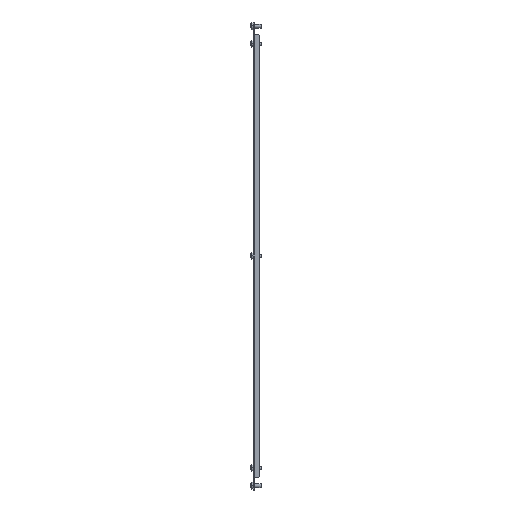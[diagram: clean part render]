
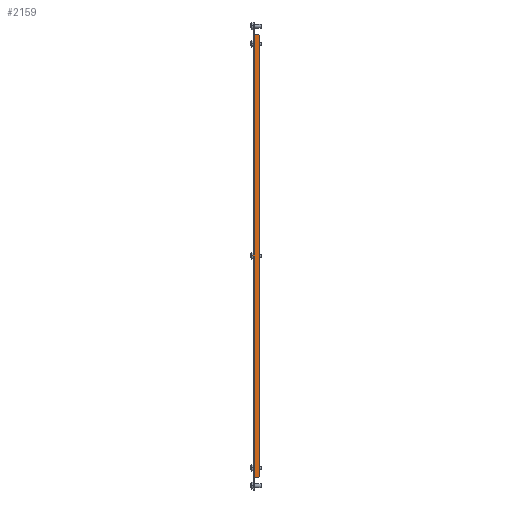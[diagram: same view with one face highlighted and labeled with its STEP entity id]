
A CAD part, left-side view. The second image highlights one B-rep face of the part: STEP entity #2159.
In plain terms, the highlighted planar face has unit normal (-1, 0, 0) as drawn and (1, 0, 0) by its records, which use the part's own axes.
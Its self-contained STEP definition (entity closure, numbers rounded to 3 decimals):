
#152 = EDGE_CURVE ( 'NONE', #1749, #219, #3457, .T. ) ;
#219 = VERTEX_POINT ( 'NONE', #1652 ) ;
#301 = CARTESIAN_POINT ( 'NONE',  ( 334., 313., 0. ) ) ;
#354 = ORIENTED_EDGE ( 'NONE', *, *, #2448, .T. ) ;
#365 = ORIENTED_EDGE ( 'NONE', *, *, #152, .T. ) ;
#373 = VECTOR ( 'NONE', #491, 1000. ) ;
#491 = DIRECTION ( 'NONE',  ( 0., -1., 0. ) ) ;
#509 = FACE_OUTER_BOUND ( 'NONE', #3644, .T. ) ;
#536 = DIRECTION ( 'NONE',  ( 0., 0.707, 0.707 ) ) ;
#622 = DIRECTION ( 'NONE',  ( 0., 0., 1. ) ) ;
#681 = EDGE_CURVE ( 'NONE', #219, #2114, #2791, .T. ) ;
#684 = VECTOR ( 'NONE', #3424, 1000. ) ;
#801 = EDGE_CURVE ( 'NONE', #3522, #1749, #1502, .T. ) ;
#832 = ORIENTED_EDGE ( 'NONE', *, *, #681, .T. ) ;
#879 = CARTESIAN_POINT ( 'NONE',  ( 334., -313., 0. ) ) ;
#897 = CARTESIAN_POINT ( 'NONE',  ( 334., 0., -9. ) ) ;
#933 = CARTESIAN_POINT ( 'NONE',  ( 334., 313., -2.1 ) ) ;
#1009 = CARTESIAN_POINT ( 'NONE',  ( 334., -313., -2.1 ) ) ;
#1035 = VECTOR ( 'NONE', #3074, 1000. ) ;
#1122 = LINE ( 'NONE', #1686, #1035 ) ;
#1301 = ORIENTED_EDGE ( 'NONE', *, *, #801, .T. ) ;
#1321 = VECTOR ( 'NONE', #3000, 1000. ) ;
#1337 = EDGE_CURVE ( 'NONE', #3055, #3046, #2657, .T. ) ;
#1354 = PLANE ( 'NONE',  #3028 ) ;
#1463 = VERTEX_POINT ( 'NONE', #2737 ) ;
#1492 = VERTEX_POINT ( 'NONE', #1009 ) ;
#1502 = LINE ( 'NONE', #301, #1840 ) ;
#1620 = DIRECTION ( 'NONE',  ( -1., 0., 0. ) ) ;
#1652 = CARTESIAN_POINT ( 'NONE',  ( 334., 313., 0. ) ) ;
#1686 = CARTESIAN_POINT ( 'NONE',  ( 334., -313., 0. ) ) ;
#1743 = CARTESIAN_POINT ( 'NONE',  ( 334., -313., -8. ) ) ;
#1749 = VERTEX_POINT ( 'NONE', #2808 ) ;
#1761 = CARTESIAN_POINT ( 'NONE',  ( 334., -312., -9. ) ) ;
#1840 = VECTOR ( 'NONE', #622, 1000. ) ;
#1844 = VECTOR ( 'NONE', #2780, 1000. ) ;
#1911 = ORIENTED_EDGE ( 'NONE', *, *, #2883, .T. ) ;
#1964 = DIRECTION ( 'NONE',  ( 0., 1., 0. ) ) ;
#1981 = LINE ( 'NONE', #897, #3503 ) ;
#2082 = ORIENTED_EDGE ( 'NONE', *, *, #2485, .T. ) ;
#2114 = VERTEX_POINT ( 'NONE', #3625 ) ;
#2159 = ADVANCED_FACE ( 'NONE', ( #509 ), #1354, .F. ) ;
#2283 = LINE ( 'NONE', #879, #1844 ) ;
#2320 = ORIENTED_EDGE ( 'NONE', *, *, #3225, .F. ) ;
#2362 = CARTESIAN_POINT ( 'NONE',  ( 334., -312., -9. ) ) ;
#2448 = EDGE_CURVE ( 'NONE', #1463, #3522, #3597, .T. ) ;
#2485 = EDGE_CURVE ( 'NONE', #1492, #3055, #1122, .T. ) ;
#2657 = LINE ( 'NONE', #2362, #684 ) ;
#2686 = CARTESIAN_POINT ( 'NONE',  ( 334., 313., -8. ) ) ;
#2705 = DIRECTION ( 'NONE',  ( 0., 0., 1. ) ) ;
#2737 = CARTESIAN_POINT ( 'NONE',  ( 334., 312., -9. ) ) ;
#2780 = DIRECTION ( 'NONE',  ( 0., 0., 1. ) ) ;
#2791 = LINE ( 'NONE', #3021, #373 ) ;
#2808 = CARTESIAN_POINT ( 'NONE',  ( 334., 313., -2.1 ) ) ;
#2883 = EDGE_CURVE ( 'NONE', #3046, #1463, #1981, .T. ) ;
#3000 = DIRECTION ( 'NONE',  ( 0., 0., 1. ) ) ;
#3021 = CARTESIAN_POINT ( 'NONE',  ( 334., 0., 0. ) ) ;
#3028 = AXIS2_PLACEMENT_3D ( 'NONE', #3606, #1620, #2705 ) ;
#3046 = VERTEX_POINT ( 'NONE', #1761 ) ;
#3055 = VERTEX_POINT ( 'NONE', #1743 ) ;
#3074 = DIRECTION ( 'NONE',  ( 0., 0., -1. ) ) ;
#3089 = CARTESIAN_POINT ( 'NONE',  ( 334., 313., -8. ) ) ;
#3198 = ORIENTED_EDGE ( 'NONE', *, *, #1337, .T. ) ;
#3225 = EDGE_CURVE ( 'NONE', #1492, #2114, #2283, .T. ) ;
#3424 = DIRECTION ( 'NONE',  ( 0., 0.707, -0.707 ) ) ;
#3457 = LINE ( 'NONE', #933, #1321 ) ;
#3503 = VECTOR ( 'NONE', #1964, 1000. ) ;
#3522 = VERTEX_POINT ( 'NONE', #2686 ) ;
#3562 = VECTOR ( 'NONE', #536, 1000. ) ;
#3597 = LINE ( 'NONE', #3089, #3562 ) ;
#3606 = CARTESIAN_POINT ( 'NONE',  ( 334., 0., 0. ) ) ;
#3625 = CARTESIAN_POINT ( 'NONE',  ( 334., -313., 0. ) ) ;
#3644 = EDGE_LOOP ( 'NONE', ( #1911, #354, #1301, #365, #832, #2320, #2082, #3198 ) ) ;
